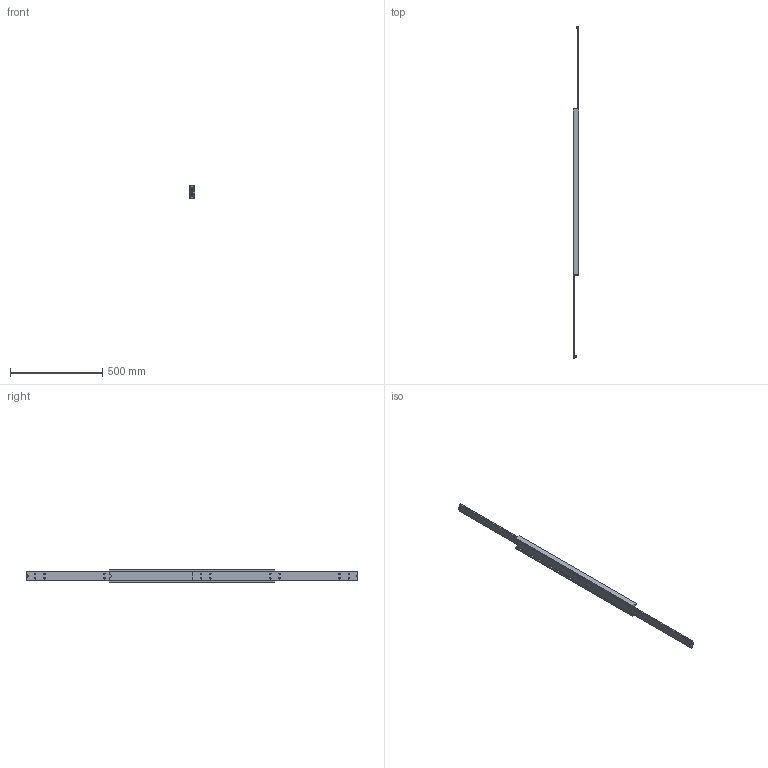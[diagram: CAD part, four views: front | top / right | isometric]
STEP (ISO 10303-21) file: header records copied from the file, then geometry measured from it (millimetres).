
FILE_DESCRIPTION(/* description */ (''),/* implementation_level */ '2;1');
FILE_NAME(/* name */ 'D:\Zeichnungen Schienen Komplett\MX-DTP70\MX-DTP70.090\MX-DTP70.090_ausgefahren.step',/* time_stamp */ '2022-08-30T09:32:40+02:00',/* author */ ('zmile'),/* organization */ (''),/* preprocessor_version */ 'ST-DEVELOPER v16.13',/* originating_system */ 'AutoCAD Mechanical',/* authorisation */ '');
FILE_SCHEMA (('AUTOMOTIVE_DESIGN { 1 0 10303 214 3 1 1 }'));
Products named in the file (1): Product
Bounding box: 32 x 1800 x 70 mm (x, y, z)
Volume: 1592246.3 mm3; surface area: 567353.9 mm2
Topology: 63 solids, 63 shells, 330 faces, 928 edges, 616 vertices
Faces by surface type: cylinder 96, plane 86, bspline 86, sphere 56, torus 6
Full cylindrical faces by diameter (mm): 9 x56, 13 x2
Entity records: 192507 total; most frequent: CARTESIAN_POINT 184953, ORIENTED_EDGE 1500, DIRECTION 1222, EDGE_CURVE 750, VERTEX_POINT 614, EDGE_LOOP 562, AXIS2_PLACEMENT_3D 505, FACE_OUTER_BOUND 330
